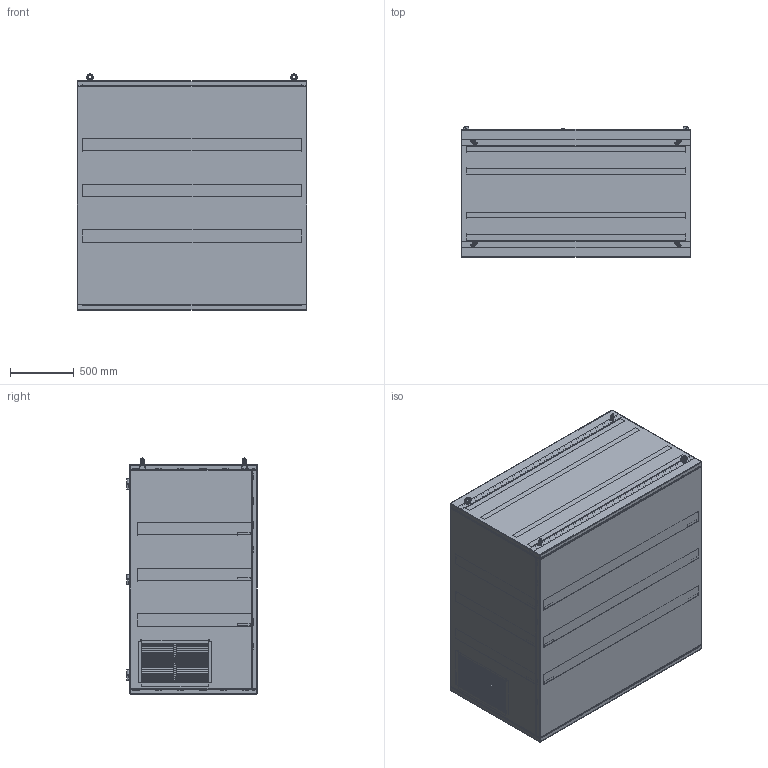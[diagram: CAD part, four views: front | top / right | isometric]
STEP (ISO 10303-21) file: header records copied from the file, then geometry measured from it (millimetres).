
FILE_DESCRIPTION(/* description */ (''),/* implementation_level */ '2;1');
FILE_NAME(/* name */ 'HDVB-1800.stp',/* time_stamp */ '2026-08-20T12:19:03+02:00',/* author */ ('rober'),/* organization */ (''),/* preprocessor_version */ 'ST-DEVELOPER v20',/* originating_system */ 'Autodesk Inventor 2025',/* authorisation */ '');
FILE_SCHEMA (('CONFIG_CONTROL_DESIGN'));
Products named in the file (4): HDVB-1800; HDVB-1800_1; 20002N-HDV-1800; 20003N-HDV-1800
Assembly tree (3 placements, depth 2):
  HDVB-1800
    HDVB-1800_1
    20002N-HDV-1800
    20003N-HDV-1800
Bounding box: 1800 x 1022.23 x 1853 mm (x, y, z)
Volume: 55127364.7 mm3; surface area: 36186550.6 mm2
Topology: 3 solids, 7 shells, 3646 faces, 9259 edges, 5652 vertices
Faces by surface type: plane 2155, cylinder 1121, cone 150, bspline 116, torus 104
Full cylindrical faces by diameter (mm): 10 x17, 12 x6, 16.6 x4, 17.5 x6, 20 x12
Entity records: 119991 total; most frequent: CARTESIAN_POINT 28356, ORIENTED_EDGE 18518, DIRECTION 18240, EDGE_CURVE 9259, AXIS2_PLACEMENT_3D 6150, LINE 5940, VECTOR 5940, VERTEX_POINT 5652
